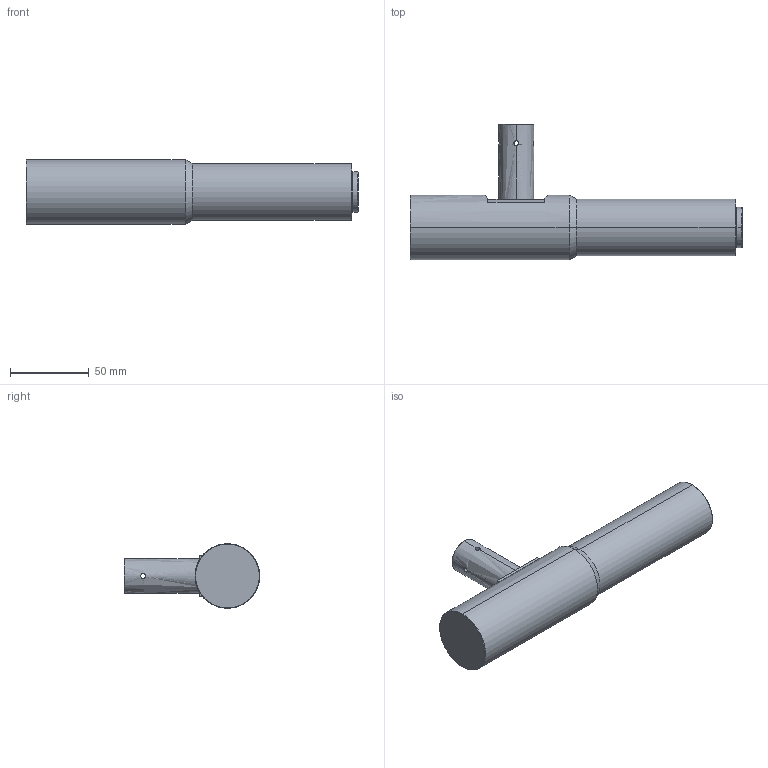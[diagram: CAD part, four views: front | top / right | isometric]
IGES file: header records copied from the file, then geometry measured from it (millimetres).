
Start section: SolidWorks IGES file using analytic representation for surfaces
Global section: file name: C:\Users\16255\Desktop\DTCA121-6.6C\DTCA121-6.IGS; native system: SolidWorks 2017; preprocessor: SolidWorks 2017; author: 16255; date: 211203.181333; units: millimetre
Bounding box: 210.2 x 85.9 x 41 mm (x, y, z)
Surface area: 31962 mm2 (no closed solid volume)
Topology: 0 solids, 0 shells, 48 faces, 1096 edges, 1096 vertices
Faces by surface type: revolution 30, bspline 18
